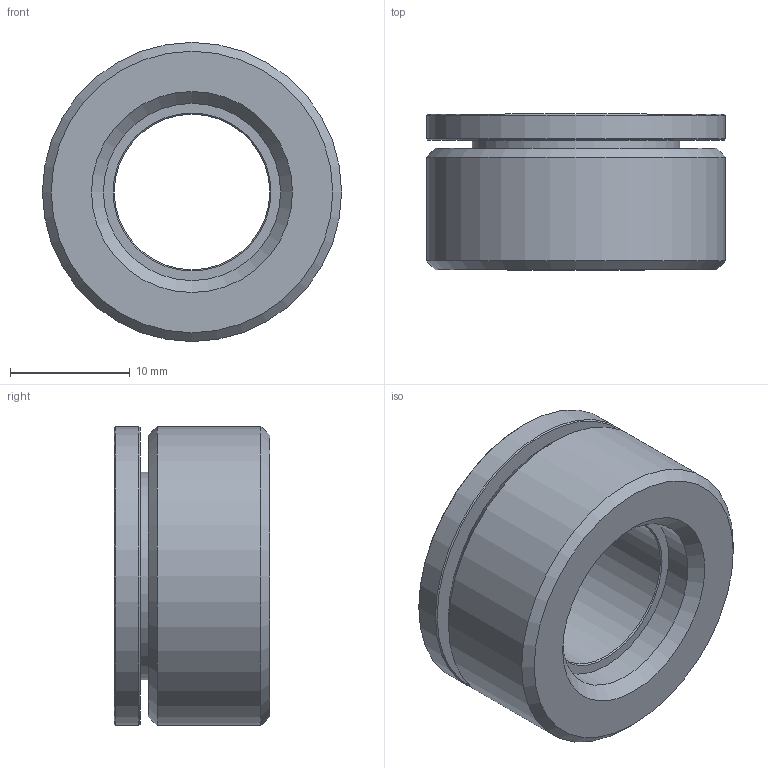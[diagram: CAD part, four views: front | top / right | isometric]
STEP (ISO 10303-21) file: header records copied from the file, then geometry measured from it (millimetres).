
FILE_DESCRIPTION( ( 'STEP AP203' ), '1' );
FILE_NAME( 'C:/Temp/Ganter_Step_05_03_2020/data/3_2/gn6319_1/gn_6319_1_st/Spherical washer GN 6319.1-25-ST.stp', '2020-03-13T05:32:15', ( 'License CC BY-ND 4.0' ), ( 'CADENAS' ), ' ', 'PARTsolutions', ' ' );
FILE_SCHEMA( ( 'CONFIG_CONTROL_DESIGN' ) );
Length unit declared in the file: millimetre
Products named in the file (1): _Spherical washer GN 6319.1-25-ST
Bounding box: 25 x 13 x 25 mm (x, y, z)
Volume: 3693.2 mm3; surface area: 3435.1 mm2
Topology: 1 solids, 1 shells, 23 faces, 39 edges, 23 vertices
Faces by surface type: cone 9, cylinder 7, plane 7
Full cylindrical faces by diameter (mm): 13 x1, 14.8 x1, 17.35 x1, 19.9 x1, 23.18 x1, 25 x2
Entity records: 512 total; most frequent: DIRECTION 94, CARTESIAN_POINT 70, AXIS2_PLACEMENT_3D 47, EDGE_LOOP 46, ORIENTED_EDGE 46, FACE_OUTER_BOUND 30, ADVANCED_FACE 23, EDGE_CURVE 23
